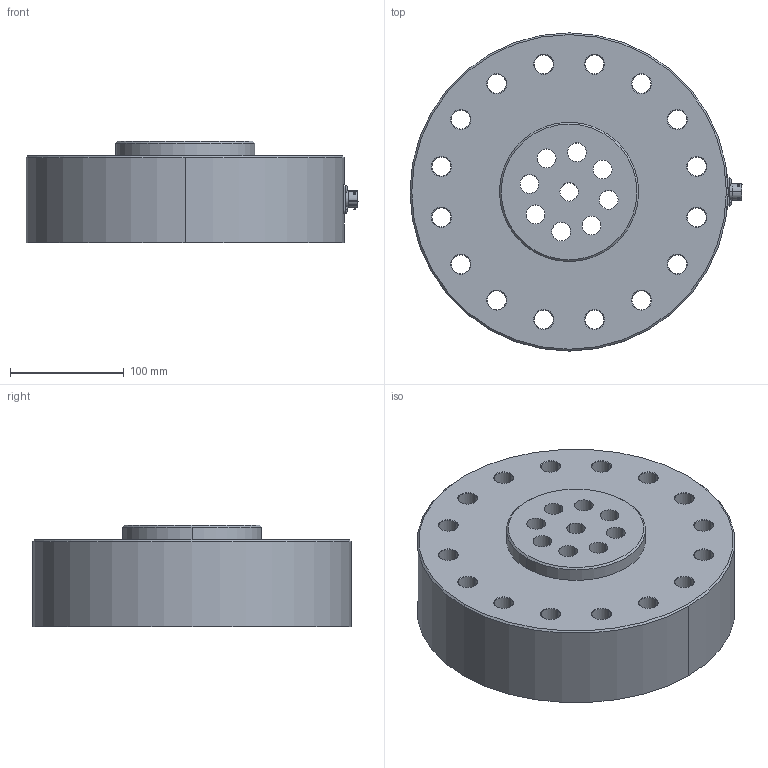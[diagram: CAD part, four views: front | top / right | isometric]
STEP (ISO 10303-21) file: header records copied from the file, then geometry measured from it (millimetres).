
FILE_DESCRIPTION (( 'STEP AP203' ), '1' );
FILE_NAME ('Interface 1248-500KN.STEP', '2011-09-27T16:16:35', ( ' ' ), ( '' ), 'SwSTEP 2.0', 'SolidWorks 2002349', '' );
FILE_SCHEMA (( 'CONFIG_CONTROL_DESIGN' ));
Length unit declared in the file: inch
Products named in the file (1): Interface 1248-500KN
Bounding box: 291.48 x 279.3 x 88.9 mm (x, y, z)
Volume: 4344885.5 mm3; surface area: 289864.9 mm2
Topology: 1 solids, 1 shells, 289 faces, 685 edges, 430 vertices
Faces by surface type: cylinder 122, plane 80, cone 62, bspline 25
Entity records: 9304 total; most frequent: CARTESIAN_POINT 2550, DIRECTION 1412, ORIENTED_EDGE 1370, EDGE_CURVE 685, AXIS2_PLACEMENT_3D 568, VERTEX_POINT 430, EDGE_LOOP 371, CIRCLE 303
